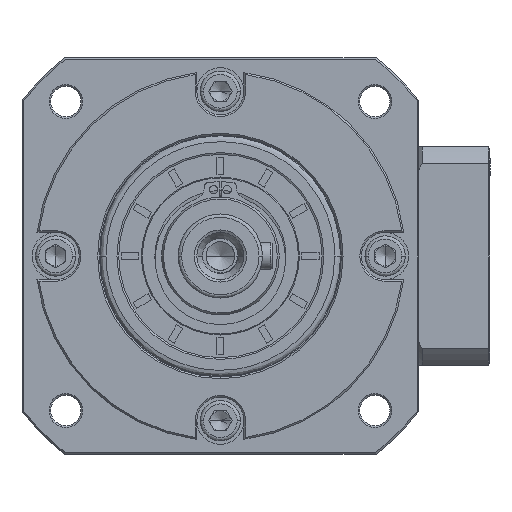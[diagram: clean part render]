
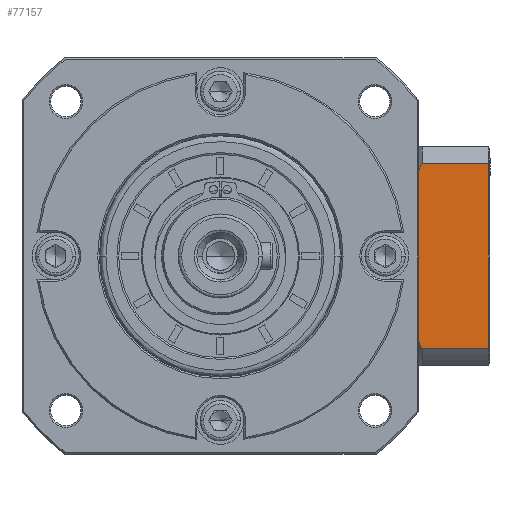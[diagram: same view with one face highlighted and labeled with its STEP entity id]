
A CAD part, left-side view. The second image highlights one B-rep face of the part: STEP entity #77157.
In plain terms, the highlighted planar face has unit normal (-1, 0, 0).
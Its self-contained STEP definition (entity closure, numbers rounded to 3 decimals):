
#1242 = EDGE_CURVE ( 'NONE', #167947, #136052, #75942, .T. ) ;
#3876 = CARTESIAN_POINT ( 'NONE',  ( -68.696, -89.681, -116.111 ) ) ;
#7268 = CARTESIAN_POINT ( 'NONE',  ( -68.696, -84.601, -75.462 ) ) ;
#13085 = ORIENTED_EDGE ( 'NONE', *, *, #25075, .F. ) ;
#13919 = EDGE_LOOP ( 'NONE', ( #144091, #14623, #95331, #150190, #173369, #13085, #24032, #143688 ) ) ;
#14623 = ORIENTED_EDGE ( 'NONE', *, *, #163356, .F. ) ;
#16223 = EDGE_CURVE ( 'NONE', #117121, #167947, #160697, .T. ) ;
#16386 = VECTOR ( 'NONE', #112843, 1000. ) ;
#17444 = CARTESIAN_POINT ( 'NONE',  ( -68.696, -91.152, -118.394 ) ) ;
#18395 = CARTESIAN_POINT ( 'NONE',  ( -68.696, -83.652, -103.999 ) ) ;
#20786 = CARTESIAN_POINT ( 'NONE',  ( -68.696, -110.852, -63.622 ) ) ;
#20802 = CARTESIAN_POINT ( 'NONE',  ( -68.696, -88.288, -68.231 ) ) ;
#20841 = EDGE_CURVE ( 'NONE', #97044, #117121, #71177, .T. ) ;
#21941 = CARTESIAN_POINT ( 'NONE',  ( -68.696, -83.652, -78.018 ) ) ;
#24032 = ORIENTED_EDGE ( 'NONE', *, *, #152605, .F. ) ;
#25075 = EDGE_CURVE ( 'NONE', #114335, #97044, #119937, .T. ) ;
#28224 = CARTESIAN_POINT ( 'NONE',  ( -68.696, -91.152, -118.394 ) ) ;
#32690 = FACE_OUTER_BOUND ( 'NONE', #13919, .T. ) ;
#34469 = CARTESIAN_POINT ( 'NONE',  ( -68.696, -91.152, -63.622 ) ) ;
#41215 = CARTESIAN_POINT ( 'NONE',  ( -68.696, -69.152, -123.508 ) ) ;
#42954 = CARTESIAN_POINT ( 'NONE',  ( -68.696, -83.652, -103.999 ) ) ;
#44705 = CARTESIAN_POINT ( 'NONE',  ( -68.696, -85.749, -109.008 ) ) ;
#48297 = AXIS2_PLACEMENT_3D ( 'NONE', #50871, #145226, #64430 ) ;
#49842 = LINE ( 'NONE', #91885, #81395 ) ;
#50871 = CARTESIAN_POINT ( 'NONE',  ( -68.696, -111.352, -123.508 ) ) ;
#57327 = VECTOR ( 'NONE', #116338, 1000. ) ;
#58300 = CARTESIAN_POINT ( 'NONE',  ( -68.696, -83.652, -103.999 ) ) ;
#59723 = VERTEX_POINT ( 'NONE', #28224 ) ;
#62398 = CARTESIAN_POINT ( 'NONE',  ( -68.696, -110.852, -123.508 ) ) ;
#64430 = DIRECTION ( 'NONE',  ( 0., 1., 0. ) ) ;
#71177 = LINE ( 'NONE', #41215, #107142 ) ;
#75942 = B_SPLINE_CURVE_WITH_KNOTS ( 'NONE', 3,
 ( #101714, #7268, #88156, #20802, #115226, #34469 ),
 .UNSPECIFIED., .F., .F.,
 ( 4, 2, 4 ),
 ( 0., 0.008, 0.016 ),
 .UNSPECIFIED. ) ;
#77157 = ADVANCED_FACE ( 'NONE', ( #32690 ), #77408, .F. ) ;
#77408 = PLANE ( 'NONE',  #48297 ) ;
#78671 = LINE ( 'NONE', #160834, #150420 ) ;
#80017 = DIRECTION ( 'NONE',  ( 0., -1., 0. ) ) ;
#81395 = VECTOR ( 'NONE', #105378, 1000. ) ;
#83216 = CARTESIAN_POINT ( 'NONE',  ( -68.696, -83.652, -78.018 ) ) ;
#87777 = EDGE_CURVE ( 'NONE', #158561, #59723, #49842, .T. ) ;
#88156 = CARTESIAN_POINT ( 'NONE',  ( -68.696, -85.749, -73.009 ) ) ;
#91885 = CARTESIAN_POINT ( 'NONE',  ( -68.696, -111.352, -118.394 ) ) ;
#95331 = ORIENTED_EDGE ( 'NONE', *, *, #1242, .F. ) ;
#97044 = VERTEX_POINT ( 'NONE', #109466 ) ;
#101714 = CARTESIAN_POINT ( 'NONE',  ( -68.696, -83.652, -78.018 ) ) ;
#105378 = DIRECTION ( 'NONE',  ( 0., 1., 0. ) ) ;
#105401 = B_SPLINE_CURVE_WITH_KNOTS ( 'NONE', 3,
 ( #17444, #3876, #125459, #44705, #139056, #58300 ),
 .UNSPECIFIED., .F., .F.,
 ( 4, 2, 4 ),
 ( 0., 0.008, 0.016 ),
 .UNSPECIFIED. ) ;
#107142 = VECTOR ( 'NONE', #121958, 1000. ) ;
#109466 = CARTESIAN_POINT ( 'NONE',  ( -68.696, -69.152, -103.999 ) ) ;
#112843 = DIRECTION ( 'NONE',  ( 0., 1., 0. ) ) ;
#114335 = VERTEX_POINT ( 'NONE', #42954 ) ;
#115226 = CARTESIAN_POINT ( 'NONE',  ( -68.696, -89.681, -65.906 ) ) ;
#116013 = EDGE_CURVE ( 'NONE', #126690, #158561, #159389, .T. ) ;
#116338 = DIRECTION ( 'NONE',  ( 0., -1., 0. ) ) ;
#117121 = VERTEX_POINT ( 'NONE', #129868 ) ;
#119269 = VECTOR ( 'NONE', #143178, 1000. ) ;
#119937 = LINE ( 'NONE', #18395, #16386 ) ;
#121958 = DIRECTION ( 'NONE',  ( 0., 0., 1. ) ) ;
#124174 = CARTESIAN_POINT ( 'NONE',  ( -68.696, -110.852, -118.394 ) ) ;
#125459 = CARTESIAN_POINT ( 'NONE',  ( -68.696, -88.288, -113.786 ) ) ;
#126690 = VERTEX_POINT ( 'NONE', #20786 ) ;
#129868 = CARTESIAN_POINT ( 'NONE',  ( -68.696, -69.152, -78.018 ) ) ;
#136052 = VERTEX_POINT ( 'NONE', #173298 ) ;
#139056 = CARTESIAN_POINT ( 'NONE',  ( -68.696, -84.601, -106.555 ) ) ;
#143178 = DIRECTION ( 'NONE',  ( 0., 0., -1. ) ) ;
#143688 = ORIENTED_EDGE ( 'NONE', *, *, #87777, .F. ) ;
#144091 = ORIENTED_EDGE ( 'NONE', *, *, #116013, .F. ) ;
#145226 = DIRECTION ( 'NONE',  ( 1., 0., 0. ) ) ;
#150190 = ORIENTED_EDGE ( 'NONE', *, *, #16223, .F. ) ;
#150420 = VECTOR ( 'NONE', #80017, 1000. ) ;
#152605 = EDGE_CURVE ( 'NONE', #59723, #114335, #105401, .T. ) ;
#158561 = VERTEX_POINT ( 'NONE', #124174 ) ;
#159389 = LINE ( 'NONE', #62398, #119269 ) ;
#160697 = LINE ( 'NONE', #21941, #57327 ) ;
#160834 = CARTESIAN_POINT ( 'NONE',  ( -68.696, -111.352, -63.622 ) ) ;
#163356 = EDGE_CURVE ( 'NONE', #136052, #126690, #78671, .T. ) ;
#167947 = VERTEX_POINT ( 'NONE', #83216 ) ;
#173298 = CARTESIAN_POINT ( 'NONE',  ( -68.696, -91.152, -63.622 ) ) ;
#173369 = ORIENTED_EDGE ( 'NONE', *, *, #20841, .F. ) ;
